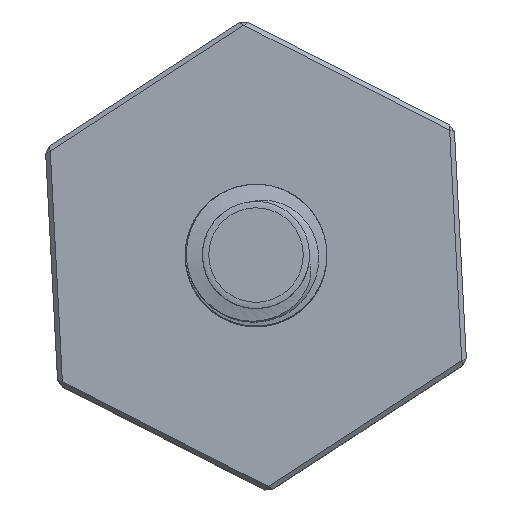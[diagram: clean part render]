
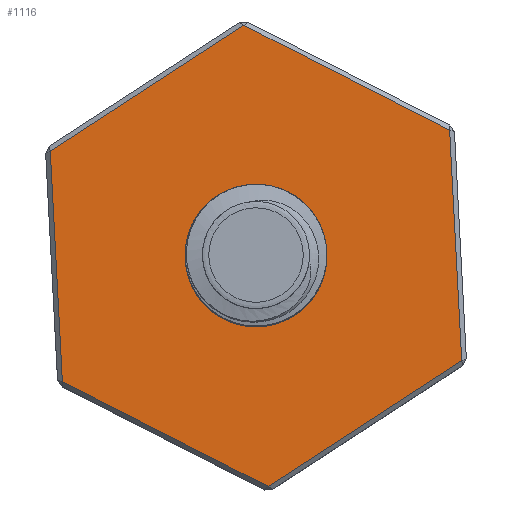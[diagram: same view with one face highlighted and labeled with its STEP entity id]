
A CAD part, top view. The second image highlights one B-rep face of the part: STEP entity #1116.
In plain terms, the highlighted planar face has unit normal (0, 0, 1).
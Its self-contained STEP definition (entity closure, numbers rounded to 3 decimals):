
#240=ORIENTED_EDGE('',*,*,#471,.T.);
#241=ORIENTED_EDGE('',*,*,#472,.T.);
#242=ORIENTED_EDGE('',*,*,#473,.T.);
#243=ORIENTED_EDGE('',*,*,#474,.T.);
#244=ORIENTED_EDGE('',*,*,#475,.T.);
#245=ORIENTED_EDGE('',*,*,#476,.T.);
#471=EDGE_CURVE('',#594,#595,#676,.T.);
#472=EDGE_CURVE('',#595,#596,#677,.T.);
#473=EDGE_CURVE('',#596,#597,#678,.T.);
#474=EDGE_CURVE('',#597,#598,#679,.T.);
#475=EDGE_CURVE('',#598,#599,#680,.T.);
#476=EDGE_CURVE('',#599,#594,#681,.T.);
#594=VERTEX_POINT('',#9254);
#595=VERTEX_POINT('',#9255);
#596=VERTEX_POINT('',#9257);
#597=VERTEX_POINT('',#9259);
#598=VERTEX_POINT('',#9261);
#599=VERTEX_POINT('',#9263);
#676=LINE('',#9253,#793);
#677=LINE('',#9256,#794);
#678=LINE('',#9258,#795);
#679=LINE('',#9260,#796);
#680=LINE('',#9262,#797);
#681=LINE('',#9264,#798);
#793=VECTOR('',#1429,1000.);
#794=VECTOR('',#1430,1000.);
#795=VECTOR('',#1431,1000.);
#796=VECTOR('',#1432,1000.);
#797=VECTOR('',#1433,1000.);
#798=VECTOR('',#1434,1000.);
#890=EDGE_LOOP('',(#240,#241,#242,#243,#244,#245));
#976=FACE_BOUND('',#890,.T.);
#1044=PLANE('',#1219);
#1116=ADVANCED_FACE('',(#976),#1044,.T.);
#1219=AXIS2_PLACEMENT_3D('',#9252,#1427,#1428);
#1427=DIRECTION('',(0.,0.,1.));
#1428=DIRECTION('',(1.,0.,0.));
#1429=DIRECTION('',(1.,0.,0.));
#1430=DIRECTION('',(0.5,0.866,0.));
#1431=DIRECTION('',(-0.5,0.866,0.));
#1432=DIRECTION('',(-1.,0.,0.));
#1433=DIRECTION('',(-0.5,-0.866,0.));
#1434=DIRECTION('',(0.5,-0.866,0.));
#9252=CARTESIAN_POINT('',(5.,8.66,34.885));
#9253=CARTESIAN_POINT('',(5.,-8.46,34.885));
#9254=CARTESIAN_POINT('',(-4.885,-8.46,34.885));
#9255=CARTESIAN_POINT('',(4.885,-8.46,34.885));
#9256=CARTESIAN_POINT('',(9.827,0.1,34.885));
#9257=CARTESIAN_POINT('',(9.769,0.,34.885));
#9258=CARTESIAN_POINT('',(4.827,8.56,34.885));
#9259=CARTESIAN_POINT('',(4.885,8.46,34.885));
#9260=CARTESIAN_POINT('',(-5.,8.46,34.885));
#9261=CARTESIAN_POINT('',(-4.885,8.46,34.885));
#9262=CARTESIAN_POINT('',(-9.827,-0.1,34.885));
#9263=CARTESIAN_POINT('',(-9.769,0.,34.885));
#9264=CARTESIAN_POINT('',(-4.827,-8.56,34.885));
